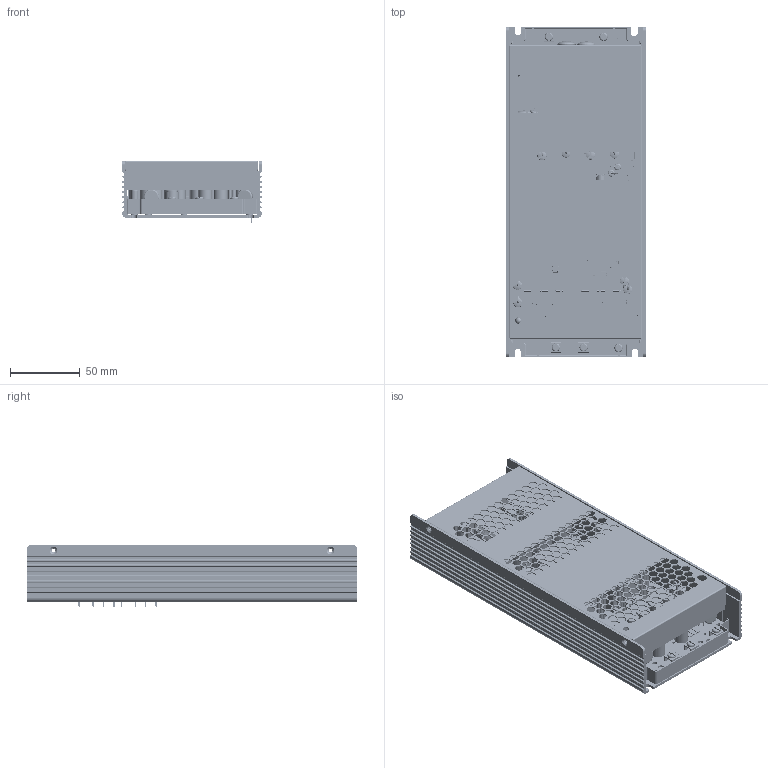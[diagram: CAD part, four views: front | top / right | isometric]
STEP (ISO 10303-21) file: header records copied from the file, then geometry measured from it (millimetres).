
FILE_DESCRIPTION(('Creo Elements/Direct Modeling STEP Export'),'2;1');
FILE_NAME('RSDH-300.stp','2025-04-15T 9:44:49',(''),(''),'Creo Elements/Direct Modeling STEP processor for AP214 (Solid Model)','Creo Elements/Direct Modeling 19.0G 27-Nov-2017 (C) Parametric Technology GmbH','');
FILE_SCHEMA(('AUTOMOTIVE_DESIGN { 1 0 10303 214 1 1 1 1 }'));
Length unit declared in the file: millimetre
Products named in the file (1045): 零件1; _X2_96F64EF6_X0_1.PRT; _X2_96F64EF6_X0_1_PRT.PRT; _X2_96F64EF6_X0_1_1_PRT.PRT; _X2_96F64EF6_X0_1_1_1_PRT.PRT; _X2_96F64EF6_X0_1_1_1_1_PRT.PRT; _X2_96F64EF6_X0_1_1_1_1_1_PRT.PRT; _X2_63A55730_X0__STP_ASM.ASM; _X2_4E0A84CB_X0__PRT.PRT; M3-7L_1_1_1_PRT.PRT; BASE_ASM.ASM; M3-7L_1_1_2_PRT.PRT; CASE_ASM.ASM; 610864936_PRT.PRT; C104_ASM.ASM; 2CDX-SMA_PRT.PRT; D210_ASM.ASM; D211_ASM.ASM; D212_ASM.ASM; 1ARX-3W_PRT.PRT; R54_ASM.ASM; R96_ASM.ASM; R46_ASM.ASM; R45_ASM.ASM; EXTRUDED-472575_PRT.PRT; 283677216_ASM.ASM; EXTRUDED-474375_PRT.PRT; 283677856_ASM.ASM; EXTRUDED-474003_PRT.PRT; 283677696_ASM.ASM; EXTRUDED-473631_PRT.PRT; 283677536_ASM.ASM; EXTRUDED-472947_PRT.PRT; 283677376_ASM.ASM; EXTRUDED-472203_PRT.PRT; 283677056_ASM.ASM; EXTRUDED-471831_PRT.PRT; 283676896_ASM.ASM; R223_ASM.ASM; EXTRUDED-312547_PRT.PRT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
Assembly tree (1837 placements, depth 10):
  零件1
  RSDH-300-20241224.stp
    RSDH-300_-____STP.ASM
      _X2_4E0B76D6_X0__STP_ASM.ASM
        HSP-300A-D_PRT.PRT
      RSDH-300_STP_ASM.ASM
        RSD-500_ASM.ASM
          _X2_88C5914D_X0_3_ASM.ASM
            PIN2-2_PRT.PRT
            _X2_656370ED7247_X0_2_PRT.PRT
          _X2_53D8538B5668_X0__ASM.ASM
            VRY-3227-220815_STP_1_ASM.ASM
              VRY-3227-220714_STP_ASM-3942770.ASM
                W_1_PRT_PRT_PRT_PRT_PRT-3942440.PRT
                FL2_ASM_1_ASM_ASM_ASM_A-3936940.ASM
                  2_1_1_1_PRT_PRT_PRT_PRT-3936510.PRT  x3
                  WIRE_1_1_PRT_PRT_PRT_5_-3934630.PRT  x3
                PQ-3220_1_1_PRT_PRT_PRT-3916010.PRT  x2
                FL1_ASM_1_ASM_ASM_ASM_A-3905440.ASM
                  _X2_88C5914D_X0_1_ASM_1-3905120.ASM
                  _X2_88C5914D_X0_1_1_ASM-3904700.ASM
                  _X2_88C5914D_X0_1_2_ASM-3872710.ASM
                _X2_88C5914D_X0_1_ASM-3840250_A.ASM
                  BOBBIN_2_1_PRT_PRT_PRT_-3839920.PRT
                  PD-3226_PRODUCT3D_H_220-3781610.ASM
            VRY-3227-220815_STP_ASM.ASM
              VRY-3227-220714_STP_ASM-3482330.ASM
                W_1_PRT_PRT_PRT_PRT_PRT-3482000.PRT
                FL2_ASM_1_ASM_ASM_ASM_A-3476500.ASM
                  2_1_1_1_PRT_PRT_PRT_PRT-3476070.PRT  x3
                  WIRE_1_1_PRT_PRT_PRT_5_-3474240.PRT  x3
                PQ-3220_1_1_PRT_PRT_PRT-3455620.PRT  x2
                FL1_ASM_1_ASM_ASM_ASM_A-3445050.ASM
                  _X2_88C5914D_X0_1_ASM_1-3444730.ASM
                  _X2_88C5914D_X0_1_1_ASM-3444310.ASM
                  _X2_88C5914D_X0_1_2_ASM-3412370.ASM
                _X2_88C5914D_X0_1_ASM-3379960_A.ASM
                  BOBBIN_2_1_PRT_PRT_PRT_-3379630.PRT
                  PD-3226_PRODUCT3D_H_220-3321320.ASM
          _X2_9EA662C9_X0__ASM.ASM
            1HH2RSDH-300E_PRT.PRT
            1HH1RSDH-300D_PRT.PRT
            1HH2RSDH-300C_PRT.PRT
            1HH2RSDH-300B_PRT.PRT
            1HH1RSDH-300C_PRT.PRT
            1HH1RSDH-300-2_PRT.PRT
            1HH1RSDH-300B_PRT.PRT
            1HH1RSDH-300A_PRT.PRT
            1HH2RSDH-300F_PRT.PRT
            1HH1RSDH-300_PRT.PRT
            1HH2RSDH-300_PRT.PRT
            1HH2RSDH-300D_PRT.PRT
            1HH2RSDH-300A_PRT.PRT
          _X2_88C5914D_X0_1_ASM.ASM
            1HH3UHP-750A_STP_ASM.ASM
              1HH3UHP-750A-22450_ASM_PRT.PRT
            1HH3UHP-750A_PRT.PRT
            1HH3UHP-750A-22120_PRT_PRT.PRT
          PCB_ASM-3752720.ASM
            PCBB_PRT.PRT
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Bounding box: 100 x 237 x 44.75 mm (x, y, z)
Volume: 367565.7 mm3; surface area: 511996.1 mm2
Topology: 908 solids, 908 shells, 23835 faces, 61449 edges, 39611 vertices
Faces by surface type: plane 13285, extrusion 4156, cylinder 4143, torus 794, bspline 718, sphere 615, cone 104, revolution 20
Entity records: 446401 total; most frequent: CARTESIAN_POINT 132230, ORIENTED_EDGE 49346, DIRECTION 45487, EDGE_CURVE 24673, VECTOR 16769, LINE 16180, VERTEX_POINT 15810, AXIS2_PLACEMENT_3D 14356
